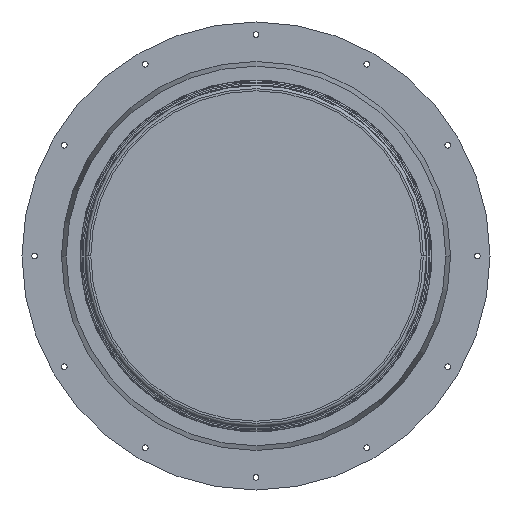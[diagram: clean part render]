
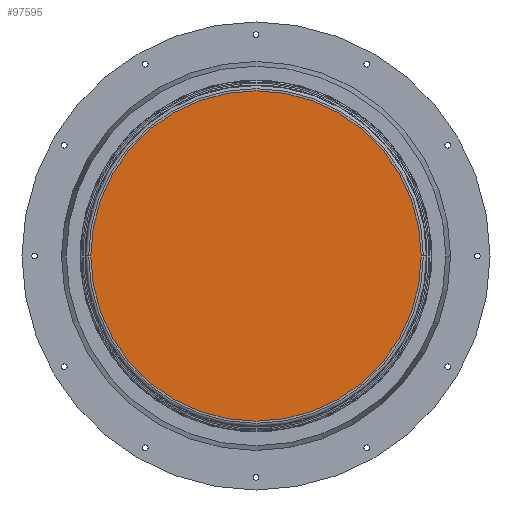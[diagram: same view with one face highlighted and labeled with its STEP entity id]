
A CAD part, front view. The second image highlights one B-rep face of the part: STEP entity #97595.
In plain terms, the highlighted planar face has unit normal (0, -1, 0).
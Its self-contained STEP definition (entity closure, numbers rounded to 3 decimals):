
#20852 = DIRECTION ( 'NONE',  ( 0., -1., 0. ) ) ;
#26862 = AXIS2_PLACEMENT_3D ( 'NONE', #114242, #29946, #128414 ) ;
#29641 = ORIENTED_EDGE ( 'NONE', *, *, #160187, .T. ) ;
#29946 = DIRECTION ( 'NONE',  ( 0., -1., 0. ) ) ;
#31540 = CIRCLE ( 'NONE', #26862, 522.579 ) ;
#43100 = CARTESIAN_POINT ( 'NONE',  ( 0., 0., 0. ) ) ;
#53965 = AXIS2_PLACEMENT_3D ( 'NONE', #105138, #20852, #119288 ) ;
#57060 = EDGE_LOOP ( 'NONE', ( #150895, #29641 ) ) ;
#57279 = DIRECTION ( 'NONE',  ( 0., 0., 1. ) ) ;
#66346 = AXIS2_PLACEMENT_3D ( 'NONE', #43100, #141470, #57279 ) ;
#89832 = CARTESIAN_POINT ( 'NONE',  ( 522.579, 0., 0. ) ) ;
#93226 = CIRCLE ( 'NONE', #66346, 522.579 ) ;
#97595 = ADVANCED_FACE ( 'NONE', ( #113807 ), #104524, .T. ) ;
#100786 = EDGE_CURVE ( 'NONE', #159876, #156212, #93226, .T. ) ;
#104524 = PLANE ( 'NONE',  #53965 ) ;
#105138 = CARTESIAN_POINT ( 'NONE',  ( 529.221, 0., -500000. ) ) ;
#113807 = FACE_OUTER_BOUND ( 'NONE', #57060, .T. ) ;
#114242 = CARTESIAN_POINT ( 'NONE',  ( 0., 0., 0. ) ) ;
#119288 = DIRECTION ( 'NONE',  ( 0., 0., -1. ) ) ;
#128414 = DIRECTION ( 'NONE',  ( 0., 0., 1. ) ) ;
#141470 = DIRECTION ( 'NONE',  ( 0., -1., 0. ) ) ;
#150895 = ORIENTED_EDGE ( 'NONE', *, *, #100786, .T. ) ;
#150982 = CARTESIAN_POINT ( 'NONE',  ( -522.579, 0., 0. ) ) ;
#156212 = VERTEX_POINT ( 'NONE', #150982 ) ;
#159876 = VERTEX_POINT ( 'NONE', #89832 ) ;
#160187 = EDGE_CURVE ( 'NONE', #156212, #159876, #31540, .T. ) ;
